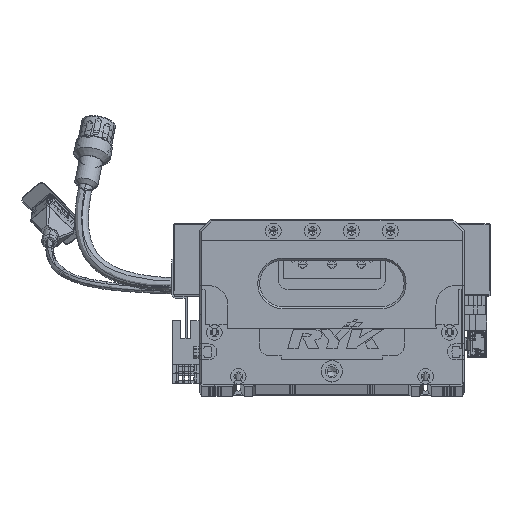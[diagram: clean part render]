
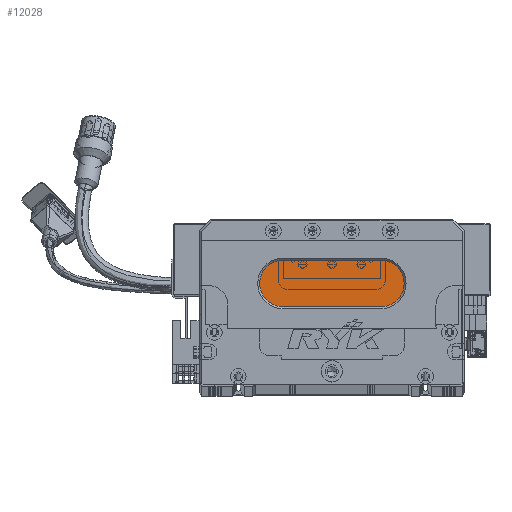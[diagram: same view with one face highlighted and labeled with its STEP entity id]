
A CAD part, top view. The second image highlights one B-rep face of the part: STEP entity #12028.
In plain terms, the highlighted planar face has unit normal (0, 0, 1) as drawn and (0, 0, -1) by its records, which use the part's own axes.
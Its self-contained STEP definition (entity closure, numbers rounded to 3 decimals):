
#2623 = CARTESIAN_POINT ( 'NONE',  ( 43., 52., 13. ) ) ;
#3448 = ORIENTED_EDGE ( 'NONE', *, *, #145042, .T. ) ;
#5450 = CIRCLE ( 'NONE', #18085, 12. ) ;
#6927 = DIRECTION ( 'NONE',  ( 1., 0., 0. ) ) ;
#12028 = ADVANCED_FACE ( 'NONE', ( #74793 ), #57585, .T. ) ;
#15085 = ORIENTED_EDGE ( 'NONE', *, *, #120869, .T. ) ;
#18085 = AXIS2_PLACEMENT_3D ( 'NONE', #2623, #124356, #58741 ) ;
#19157 = DIRECTION ( 'NONE',  ( -1., 0., 0. ) ) ;
#20161 = CARTESIAN_POINT ( 'NONE',  ( 93., 40., 13. ) ) ;
#39905 = CARTESIAN_POINT ( 'NONE',  ( 31., 52., 13. ) ) ;
#41121 = CARTESIAN_POINT ( 'NONE',  ( 93., 64., 13. ) ) ;
#41190 = CIRCLE ( 'NONE', #103188, 12. ) ;
#42149 = VERTEX_POINT ( 'NONE', #77878 ) ;
#47197 = CARTESIAN_POINT ( 'NONE',  ( 93., 64., 13. ) ) ;
#48617 = AXIS2_PLACEMENT_3D ( 'NONE', #112374, #123207, #133472 ) ;
#48891 = ORIENTED_EDGE ( 'NONE', *, *, #129270, .T. ) ;
#50325 = AXIS2_PLACEMENT_3D ( 'NONE', #91317, #135928, #68850 ) ;
#56396 = VERTEX_POINT ( 'NONE', #39905 ) ;
#57585 = PLANE ( 'NONE',  #50325 ) ;
#58500 = ORIENTED_EDGE ( 'NONE', *, *, #116482, .T. ) ;
#58741 = DIRECTION ( 'NONE',  ( -1., 0., 0. ) ) ;
#62668 = CARTESIAN_POINT ( 'NONE',  ( 93., 52., 13. ) ) ;
#62802 = EDGE_CURVE ( 'NONE', #120591, #132497, #133188, .T. ) ;
#68850 = DIRECTION ( 'NONE',  ( -1., 0., 0. ) ) ;
#74793 = FACE_OUTER_BOUND ( 'NONE', #107239, .T. ) ;
#77878 = CARTESIAN_POINT ( 'NONE',  ( 93., 40., 13. ) ) ;
#91317 = CARTESIAN_POINT ( 'NONE',  ( 93., 52., 13. ) ) ;
#98155 = CIRCLE ( 'NONE', #48617, 12. ) ;
#101323 = VERTEX_POINT ( 'NONE', #110448 ) ;
#102503 = VECTOR ( 'NONE', #111036, 1000. ) ;
#103188 = AXIS2_PLACEMENT_3D ( 'NONE', #62668, #109551, #19157 ) ;
#107239 = EDGE_LOOP ( 'NONE', ( #3448, #15085, #48891, #58500, #139451 ) ) ;
#109551 = DIRECTION ( 'NONE',  ( 0., 0., -1. ) ) ;
#110448 = CARTESIAN_POINT ( 'NONE',  ( 43., 40., 13. ) ) ;
#111036 = DIRECTION ( 'NONE',  ( -1., 0., 0. ) ) ;
#112374 = CARTESIAN_POINT ( 'NONE',  ( 43., 52., 13. ) ) ;
#113606 = CARTESIAN_POINT ( 'NONE',  ( 43., 64., 13. ) ) ;
#116482 = EDGE_CURVE ( 'NONE', #56396, #120591, #98155, .T. ) ;
#120591 = VERTEX_POINT ( 'NONE', #113606 ) ;
#120869 = EDGE_CURVE ( 'NONE', #42149, #101323, #132297, .T. ) ;
#123207 = DIRECTION ( 'NONE',  ( 0., 0., -1. ) ) ;
#124356 = DIRECTION ( 'NONE',  ( 0., 0., -1. ) ) ;
#129270 = EDGE_CURVE ( 'NONE', #101323, #56396, #5450, .T. ) ;
#132297 = LINE ( 'NONE', #20161, #102503 ) ;
#132497 = VERTEX_POINT ( 'NONE', #47197 ) ;
#133188 = LINE ( 'NONE', #41121, #141880 ) ;
#133472 = DIRECTION ( 'NONE',  ( -1., 0., 0. ) ) ;
#135928 = DIRECTION ( 'NONE',  ( 0., 0., -1. ) ) ;
#139451 = ORIENTED_EDGE ( 'NONE', *, *, #62802, .T. ) ;
#141880 = VECTOR ( 'NONE', #6927, 1000. ) ;
#145042 = EDGE_CURVE ( 'NONE', #132497, #42149, #41190, .T. ) ;
